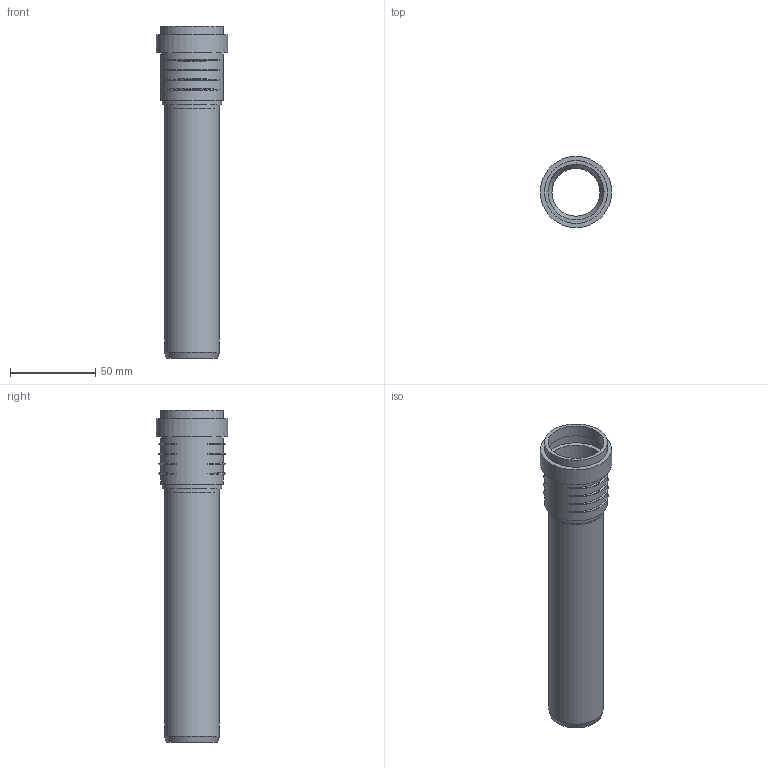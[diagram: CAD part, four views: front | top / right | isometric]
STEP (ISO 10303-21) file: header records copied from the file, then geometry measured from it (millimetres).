
FILE_DESCRIPTION(/* description */ (''),/* implementation_level */ '2;1');
FILE_NAME(/* name */ 'Z:\Geberit\Export\NewStep\390000.stp',/* time_stamp */ '2014-04-02T08:07:40+02:00',/* author */ ('ML'),/* organization */ (''),/* preprocessor_version */ 'ST-DEVELOPER v15.2',/* originating_system */ 'Autodesk Inventor 2014',/* authorisation */ '');
FILE_SCHEMA (('AUTOMOTIVE_DESIGN { 1 0 10303 214 3 1 1 }'));
Length unit declared in the file: millimetre
Products named in the file (3): 861659; 861580ohne; 390000
Bounding box: 41.8 x 41.8 x 194.3 mm (x, y, z)
Volume: 40176.5 mm3; surface area: 41185.9 mm2
Topology: 2 solids, 2 shells, 47 faces, 104 edges, 71 vertices
Faces by surface type: torus 24, cylinder 11, plane 10, cone 2
Full cylindrical faces by diameter (mm): 28.15 x2, 32.15 x2, 32.8 x2, 34.8 x1, 36.8 x2, 37.8 x1, 41.8 x1
Entity records: 1971 total; most frequent: CARTESIAN_POINT 930, DIRECTION 182, ORIENTED_EDGE 174, AXIS2_PLACEMENT_3D 91, EDGE_CURVE 87, EDGE_LOOP 78, VERTEX_POINT 71, STYLED_ITEM 49
